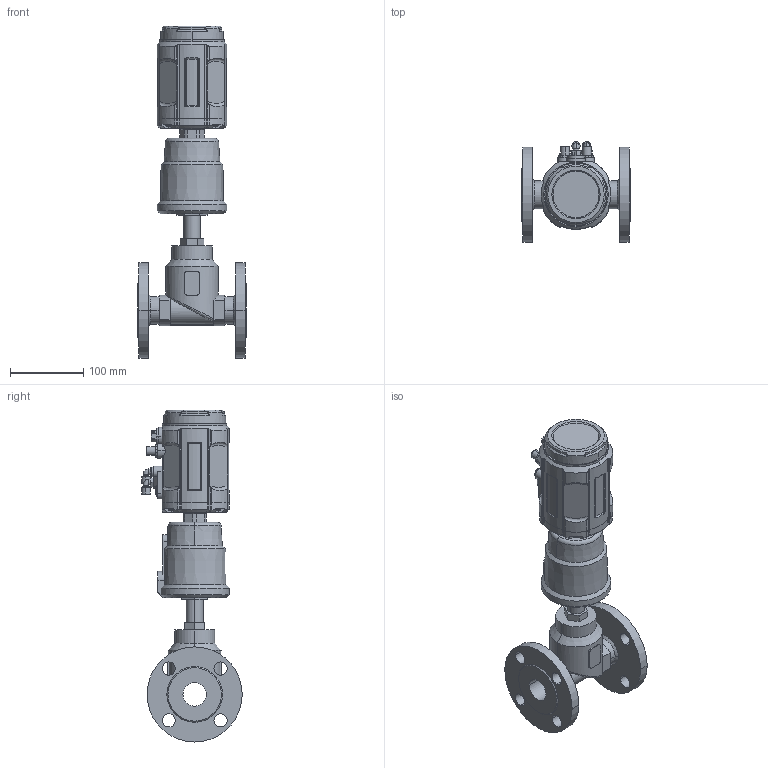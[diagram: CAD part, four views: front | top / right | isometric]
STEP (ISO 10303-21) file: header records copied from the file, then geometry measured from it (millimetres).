
FILE_DESCRIPTION((''),'2;1');
FILE_NAME('PV_F_EPP_P_2_ASM','2025-03-06T',('USER'),(''),'PRO/ENGINEER BY PARAMETRIC TECHNOLOGY CORPORATION, 2011220','PRO/ENGINEER BY PARAMETRIC TECHNOLOGY CORPORATION, 2011220','');
FILE_SCHEMA(('CONFIG_CONTROL_DESIGN'));
Length unit declared in the file: millimetre
Products named in the file (12): KLAPAN; PNEVMOPRIVOD; KOLCO_52_GOST13943; POZICIONER_VERX; POZICIONER_NIZ; SHLYAPKA_VINT; DET; DET_2; SHLYAPKA_VINT_2; DET_3; SB_POZICIONER_ASM; PV_F_EPP_P_2_ASM
Assembly tree (18 placements, depth 3):
  PV_F_EPP_P_2_ASM
    KLAPAN
    PNEVMOPRIVOD
    KOLCO_52_GOST13943
    SB_POZICIONER_ASM
      POZICIONER_VERX
      POZICIONER_NIZ
      SHLYAPKA_VINT  x4
      DET
      DET_2
      SHLYAPKA_VINT_2  x4
      DET_3  x2
Bounding box: 148 x 137.25 x 453.5 mm (x, y, z)
Volume: 2214735.7 mm3; surface area: 248034.8 mm2
Topology: 17 solids, 22 shells, 823 faces, 2072 edges, 1354 vertices
Faces by surface type: plane 396, cylinder 329, cone 50, torus 24, bspline 12, sphere 12
Entity records: 22253 total; most frequent: CARTESIAN_POINT 5436, DIRECTION 3527, ORIENTED_EDGE 3398, EDGE_CURVE 1709, AXIS2_PLACEMENT_3D 1333, VERTEX_POINT 1119, VECTOR 861, LINE 861
